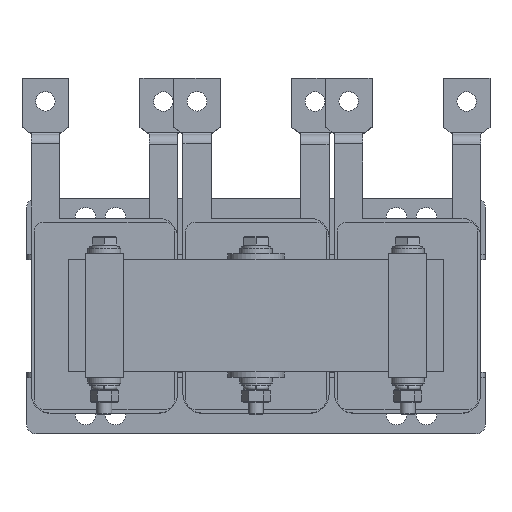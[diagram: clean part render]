
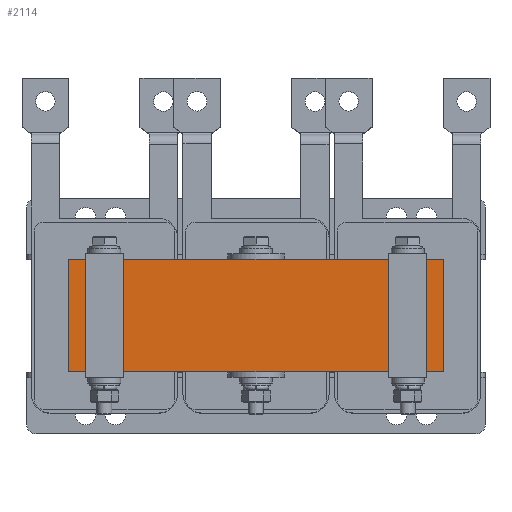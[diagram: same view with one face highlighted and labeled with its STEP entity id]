
A CAD part, top view. The second image highlights one B-rep face of the part: STEP entity #2114.
In plain terms, the highlighted planar face has unit normal (0, 0, 1).
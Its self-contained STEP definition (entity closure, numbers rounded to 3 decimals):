
#2114=ADVANCED_FACE('',(#2939),#2941,.T.);
#2939=FACE_BOUND('',#2940,.T.);
#2940=EDGE_LOOP('',(#4021,#4022,#4023,#4024));
#2941=PLANE('',#2942);
#2942=AXIS2_PLACEMENT_3D('',#2943,#2944,#2945);
#2943=CARTESIAN_POINT('',(0.,0.,38.));
#2944=DIRECTION('',(0.,0.,1.));
#2945=DIRECTION('',(-1.,0.,0.));
#4021=ORIENTED_EDGE('',*,*,#4559,.T.);
#4022=ORIENTED_EDGE('',*,*,#4552,.T.);
#4023=ORIENTED_EDGE('',*,*,#4560,.T.);
#4024=ORIENTED_EDGE('',*,*,#4545,.T.);
#4545=EDGE_CURVE('',#5093,#5091,#5094,.T.);
#4552=EDGE_CURVE('',#5107,#5105,#5108,.T.);
#4559=EDGE_CURVE('',#5091,#5107,#5118,.T.);
#4560=EDGE_CURVE('',#5105,#5093,#5119,.T.);
#5091=VERTEX_POINT('',#6279);
#5093=VERTEX_POINT('',#6283);
#5094=LINE('',#6284,#6285);
#5105=VERTEX_POINT('',#6310);
#5107=VERTEX_POINT('',#6314);
#5108=LINE('',#6315,#6316);
#5118=LINE('',#6342,#6343);
#5119=LINE('',#6345,#6346);
#6279=CARTESIAN_POINT('',(-100.,30.,38.));
#6283=CARTESIAN_POINT('',(100.,30.,38.));
#6284=CARTESIAN_POINT('',(100.,30.,38.));
#6285=VECTOR('',#6286,1.);
#6286=DIRECTION('',(-1.,0.,0.));
#6310=CARTESIAN_POINT('',(100.,-30.,38.));
#6314=CARTESIAN_POINT('',(-100.,-30.,38.));
#6315=CARTESIAN_POINT('',(-100.,-30.,38.));
#6316=VECTOR('',#6317,1.);
#6317=DIRECTION('',(1.,0.,0.));
#6342=CARTESIAN_POINT('',(-100.,30.,38.));
#6343=VECTOR('',#6344,1.);
#6344=DIRECTION('',(0.,-1.,0.));
#6345=CARTESIAN_POINT('',(100.,-30.,38.));
#6346=VECTOR('',#6347,1.);
#6347=DIRECTION('',(0.,1.,0.));
